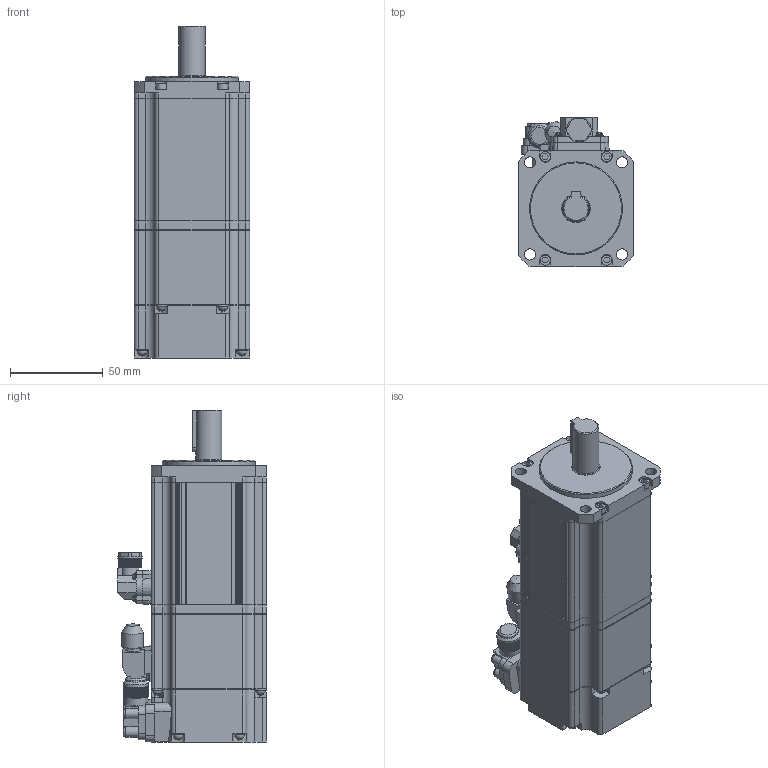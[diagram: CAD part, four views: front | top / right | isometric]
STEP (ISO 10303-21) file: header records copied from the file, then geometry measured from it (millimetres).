
FILE_DESCRIPTION(/* description */ ('STEP AP203'),/* implementation_level */ '2;1');
FILE_NAME(/* name */ 'PM-FBL04AMK2',/* time_stamp */ '2024-07-11T23:26:51+02:00',/* author */ ('License CC BY-ND 4.0'),/* organization */ ('CADENAS'),/* preprocessor_version */ 'ST-DEVELOPER v19.3',/* originating_system */ 'PARTsolutions',/* authorisation */ ' ');
FILE_SCHEMA (('CONFIG_CONTROL_DESIGN'));
Length unit declared in the file: millimetre
Products named in the file (4): PM-FBL04AMK2; PM-FBL04AMK2_h; PM-FBL04AMK2_s; PM-FBL04AMK2_bc
Assembly tree (3 placements, depth 2):
  PM-FBL04AMK2
    PM-FBL04AMK2_h
    PM-FBL04AMK2_s
    PM-FBL04AMK2_bc
Bounding box: 62 x 80 x 178.5 mm (x, y, z)
Volume: 530816.1 mm3; surface area: 72782.1 mm2
Topology: 3 solids, 3 shells, 1376 faces, 3687 edges, 2373 vertices
Faces by surface type: plane 1111, cylinder 230, torus 16, cone 11, sphere 8
Full cylindrical faces by diameter (mm): 3.4 x4, 3.5 x2, 4 x8, 5.5 x4, 5.7 x8, 6 x4, 7.88 x1, 11 x1, 11.6 x1, 13 x1, 13.1 x1, 13.5 x1, 14 x1, 15 x1, 15.3 x1, 50 x1
Entity records: 42114 total; most frequent: CARTESIAN_POINT 7717, ORIENTED_EDGE 7192, DIRECTION 6943, EDGE_CURVE 3596, LINE 2753, VECTOR 2753, VERTEX_POINT 2351, AXIS2_PLACEMENT_3D 2095
